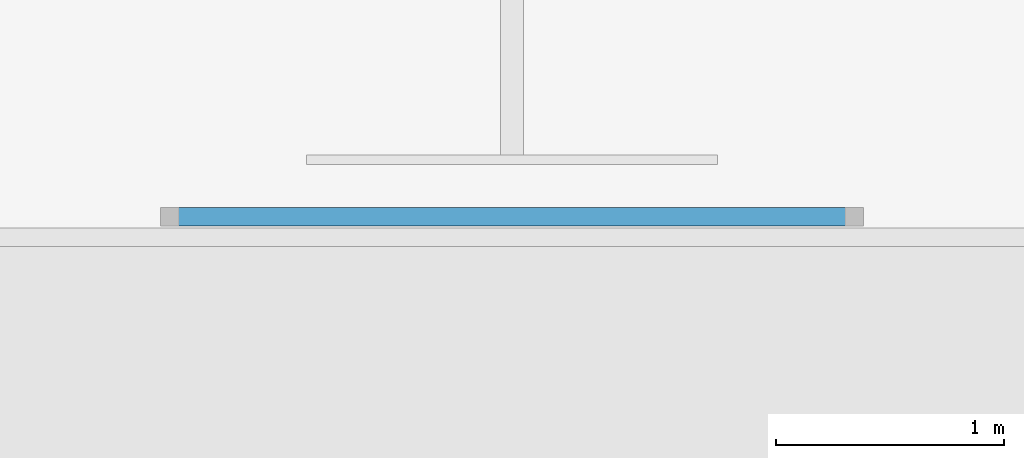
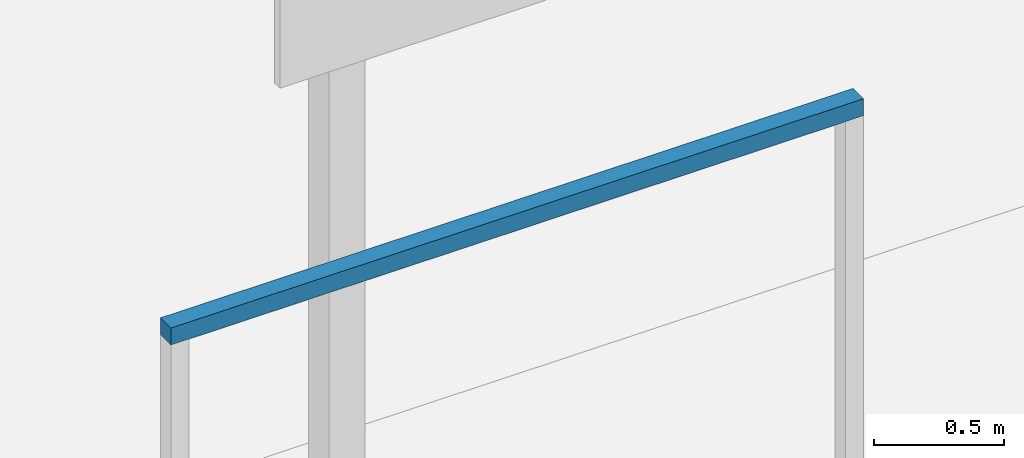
# One storey, part 23 of 151: 1 beam.
"""IFC2X3 building model written with IfcOpenShell, lengths in metres."""

import ifcopenshell
import ifcopenshell.guid

model = None  # the IFC model being written
_history = None  # IfcOwnerHistory: only IFC2X3 demands one
_inside = {}  # id of a spatial element -> (the spatial element, [elements in it])
_under = {}  # id of a project, library or spatial element -> (it, [spatial elements below it])
_declared = {}  # id of a project -> (the project, [libraries it declares])
_typed = {}  # id of a type object -> (the type object, [elements of that type])
_made_of = {}  # id of a material, layer set ... -> (it, [elements and type objects made of it])


def new_model(schema):
    """Start an empty IFC model of exactly this schema.

    Asked for "IFC4X3", IfcOpenShell would pick the latest addendum, in which some entities
    have other attributes; the version numbers below select the first issue.
    IFC2X3 requires an IfcOwnerHistory on every rooted entity: one is made here for all.
    """
    global model, _history
    if schema == "IFC4X3":
        model = ifcopenshell.file(schema_version=(4, 3, 0, 0))
    else:
        model = ifcopenshell.file(schema=schema)
    _inside.clear()
    _under.clear()
    _declared.clear()
    _typed.clear()
    _made_of.clear()
    _history = None
    if model.schema == "IFC2X3":
        org = make("IfcOrganization", Name="unknown")
        user = make(
            "IfcPersonAndOrganization",
            ThePerson=make("IfcPerson", FamilyName="unknown"),
            TheOrganization=org,
        )
        app = make(
            "IfcApplication",
            ApplicationDeveloper=org,
            Version="unknown",
            ApplicationFullName="unknown",
            ApplicationIdentifier="unknown",
        )
        _history = make(
            "IfcOwnerHistory",
            OwningUser=user,
            OwningApplication=app,
            ChangeAction="ADDED",
            CreationDate=0,
        )
    return model


def make(cls, **values):
    """One entity of the class cls with the attributes given. An attribute that is None is left unset."""
    return model.create_entity(
        cls, **{name: value for name, value in values.items() if value is not None}
    )


def rooted(cls, **values):
    """An entity with a GlobalId (a new one), such as an element, a storey or a relation."""
    return make(cls, GlobalId=ifcopenshell.guid.new(), OwnerHistory=_history, **values)


def si_unit(unit_type, name, prefix=None):
    """IfcSIUnit, for example si_unit("LENGTHUNIT", "METRE", prefix="MILLI")."""
    return make("IfcSIUnit", UnitType=unit_type, Prefix=prefix, Name=name)


def assignment(units):
    """IfcUnitAssignment: the units of a project."""
    return None if units is None else make("IfcUnitAssignment", Units=units)


def point(xyz):
    """IfcCartesianPoint."""
    return None if xyz is None else make("IfcCartesianPoint", Coordinates=xyz)


def direction(xyz):
    """IfcDirection."""
    return None if xyz is None else make("IfcDirection", DirectionRatios=xyz)


def frame(location, z_axis=None, x_axis=None):
    """IfcAxis2Placement3D, a coordinate frame: its origin and axes. An axis left out is left unset."""
    return make(
        "IfcAxis2Placement3D",
        Location=point(location),
        Axis=direction(z_axis),
        RefDirection=direction(x_axis),
    )


def origin():
    """The frame at (0, 0, 0) with its axes left unset."""
    return frame((0.0, 0.0, 0.0))


def origin_with_axes():
    """The frame at (0, 0, 0) with the z axis (0, 0, 1) and the x axis (1, 0, 0) written out."""
    return frame((0.0, 0.0, 0.0), z_axis=(0.0, 0.0, 1.0), x_axis=(1.0, 0.0, 0.0))


def place(relative_to, where):
    """IfcLocalPlacement: puts the frame where relative to a parent placement (None: the world)."""
    return make(
        "IfcLocalPlacement", PlacementRelTo=relative_to, RelativePlacement=where
    )


def context(
    kind, dimensions, precision=None, world=None, true_north=None, identifier=None
):
    """IfcGeometricRepresentationContext, for example the 3D "Model" context."""
    return make(
        "IfcGeometricRepresentationContext",
        ContextIdentifier=identifier,
        ContextType=kind,
        CoordinateSpaceDimension=dimensions,
        Precision=precision,
        WorldCoordinateSystem=world,
        TrueNorth=true_north,
    )


def subcontext(parent, identifier, kind, view, scale=None):
    """IfcGeometricRepresentationSubContext, for example "Body" below "Model"."""
    return make(
        "IfcGeometricRepresentationSubContext",
        ContextIdentifier=identifier,
        ContextType=kind,
        ParentContext=parent,
        TargetScale=scale,
        TargetView=view,
    )


def project(units=None, contexts=None):
    """IfcProject with its units and contexts."""
    return rooted(
        "IfcProject",
        Name="project",
        RepresentationContexts=contexts,
        UnitsInContext=assignment(units),
    )


def spatial(cls, under=None, at=None, **own):
    """A site, building, storey or space (cls), placed at a placement, below another one or the project."""
    s = rooted(cls, ObjectPlacement=at, **own)
    if under is not None:
        _under.setdefault(under.id(), (under, []))[1].append(s)
    return s


def faces_of(points, faces, orient=None, outer=None):
    """IfcFace entities. A face is a list of loops; a loop is a list of indices into points, from 0.

    orient and outer hold one flag for each loop. By default every Orientation is true, the
    first loop of a face is its IfcFaceOuterBound and the others are IfcFaceBound.
    """
    made = []
    for i, loops in enumerate(faces):
        bounds = []
        for j, loop in enumerate(loops):
            is_outer = j == 0 if outer is None else outer[i][j]
            bounds.append(
                make(
                    "IfcFaceOuterBound" if is_outer else "IfcFaceBound",
                    Bound=make("IfcPolyLoop", Polygon=[points[k] for k in loop]),
                    Orientation=True if orient is None else orient[i][j],
                )
            )
        made.append(make("IfcFace", Bounds=bounds))
    return made


def faceted_brep(points, faces, orient=None, outer=None, voids=None):
    """IfcFacetedBrep: a solid bounded by flat faces; with voids (closed shells), ...WithVoids."""
    shared = [point(p) for p in points]
    hull = make("IfcClosedShell", CfsFaces=faces_of(shared, faces, orient, outer))
    if voids is None:
        return make("IfcFacetedBrep", Outer=hull)
    return make(
        "IfcFacetedBrepWithVoids",
        Outer=hull,
        Voids=[
            make(cls, CfsFaces=faces_of(shared, fs, o, b)) for cls, fs, o, b in voids
        ],
    )


def shape(context_of_items, identifier, shape_type, items):
    """IfcShapeRepresentation: the items that make up one representation, for example the "Body"."""
    return make(
        "IfcShapeRepresentation",
        ContextOfItems=context_of_items,
        RepresentationIdentifier=identifier,
        RepresentationType=shape_type,
        Items=items,
    )


def made_of(thing, what):
    """Note that an element or type object is made of a material, layer set ...; save() writes the relation."""
    if what is not None:
        _made_of.setdefault(what.id(), (what, []))[1].append(thing)
    return thing


def element(
    cls,
    number,
    at=None,
    inside=None,
    cuts=None,
    type_object=None,
    material=None,
    context=None,
    identifier="Body",
    shape_type=None,
    held_by="IfcProductDefinitionShape",
    body=None,
    shapes=None,
    **own,
):
    """One element of the class cls, such as IfcWall. Its Tag is "e" and its number.

    at: its placement. inside: the storey or other place that contains it. cuts: it is an
    opening in that element (IfcRelVoidsElement). A single representation is given by context,
    identifier, shape_type and body (its items); several are given by shapes. held_by: the class
    of the entity that holds the representations. save() writes the other relations.
    """
    e = rooted(cls, Tag="e%d" % number, ObjectPlacement=at, **own)
    if body is not None:
        shapes = [shape(context, identifier, shape_type, body)]
    if shapes is not None:
        e.Representation = make(held_by, Representations=shapes)
    if inside is not None:
        _inside.setdefault(inside.id(), (inside, []))[1].append(e)
    if cuts is not None:
        rooted(
            "IfcRelVoidsElement", RelatingBuildingElement=cuts, RelatedOpeningElement=e
        )
    if type_object is not None:
        _typed.setdefault(type_object.id(), (type_object, []))[1].append(e)
    return made_of(e, material)


def aggregate(whole, parts):
    """IfcRelAggregates: a whole, such as a stair, and the parts it consists of."""
    return rooted("IfcRelAggregates", RelatingObject=whole, RelatedObjects=parts)


def save(model, path):
    """Write the relations noted so far, then the file.

    IfcRelAggregates (storeys below a building ...), IfcRelContainedInSpatialStructure (elements
    in a storey), IfcRelDefinesByType, IfcRelAssociatesMaterial and IfcRelDeclares: one each for
    every whole, place, type object, material and project.
    """
    for whole, parts in _under.values():
        aggregate(whole, parts)
    for where, things in _inside.values():
        rooted(
            "IfcRelContainedInSpatialStructure",
            RelatedElements=things,
            RelatingStructure=where,
        )
    for kind, things in _typed.values():
        rooted("IfcRelDefinesByType", RelatedObjects=things, RelatingType=kind)
    for what, things in _made_of.values():
        rooted("IfcRelAssociatesMaterial", RelatedObjects=things, RelatingMaterial=what)
    for by, libraries in _declared.values():
        rooted("IfcRelDeclares", RelatingContext=by, RelatedDefinitions=libraries)
    model.write(path)


model = new_model("IFC2X3")

# Units and contexts
model_context = context("Model", 3, precision=1e-05, world=origin_with_axes())
body_context = subcontext(model_context, "Body", "Model", "MODEL_VIEW")
ifc_project = project(units=[si_unit("LENGTHUNIT", "METRE"), si_unit("AREAUNIT", "SQUARE_METRE"), si_unit("VOLUMEUNIT", "CUBIC_METRE"), si_unit("PLANEANGLEUNIT", "RADIAN")], contexts=[model_context])

# Site, building, storey
site_placement = place(None, origin_with_axes())
site = spatial("IfcSite", under=ifc_project, at=site_placement, Name="Predio Los Mangos - Morales, San Martín", CompositionType="ELEMENT")
building_placement = place(site_placement, origin())
building = spatial("IfcBuilding", under=site, at=building_placement, Name="Hogar de Refugio Temporal", CompositionType="ELEMENT")
storey_placement = place(building_placement, origin())
storey = spatial("IfcBuildingStorey", under=building, at=storey_placement, Name="NIVEL 1 (NPT +0.00)", CompositionType="ELEMENT", Elevation=0.0)

# Beam
beam_placement = place(storey_placement, origin())
element("IfcBeam", 1, at=beam_placement, inside=storey, Name="travesano", ObjectType="Viga", context=body_context, shape_type="Brep", body=[
    faceted_brep([(13.51, 125.41, 2.08), (13.51, 125.49, 2.08), (16.59, 125.49, 2.08), (16.59, 125.41, 2.08), (13.51, 125.41, 2.16), (16.59, 125.41, 2.16), (16.59, 125.49, 2.16), (13.51, 125.49, 2.16)], [[[0, 1, 2, 3]], [[4, 5, 6, 7]], [[0, 3, 5, 4]], [[3, 2, 6, 5]], [[2, 1, 7, 6]], [[1, 0, 4, 7]]]),
])

save(model, "model.ifc")
